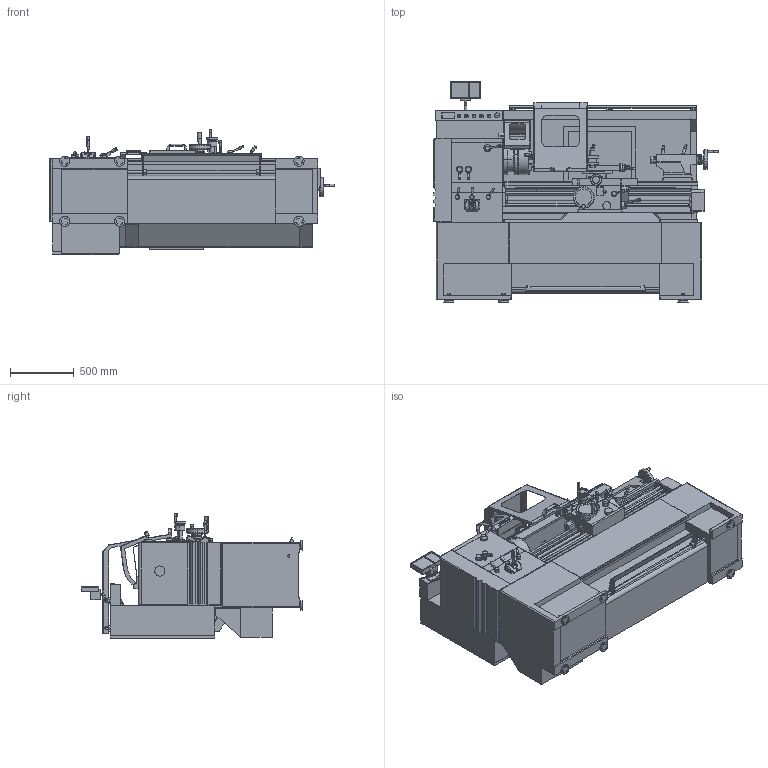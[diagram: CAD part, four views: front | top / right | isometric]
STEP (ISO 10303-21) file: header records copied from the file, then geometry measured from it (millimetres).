
FILE_DESCRIPTION (( 'STEP AP203' ), '1' );
FILE_NAME ('HML-1V.STEP', '2026-07-16T16:15:55', ( '' ), ( '' ), 'SwSTEP 2.0', 'SolidWorks 2025', '' );
FILE_SCHEMA (( 'CONFIG_CONTROL_DESIGN' ));
Products named in the file (13): Leveling Pads; Tailstock; Chuck Safety Guard; Control Panel and Headstock; Z-Axis; 3 Jaw Chuck; Base; Compound Rest & 4-way Tool Post; HML-1V; Digital Readout; Cross Slide & Apron; Sliding Safety Guard; Cabinet and Panel
Assembly tree (12 placements, depth 2):
  HML-1V
    Cabinet and Panel
    Sliding Safety Guard
    Control Panel and Headstock
    Chuck Safety Guard
    3 Jaw Chuck
    Z-Axis
    Base
    Tailstock
    Compound Rest & 4-way Tool Post
    Cross Slide & Apron
    Leveling Pads
    Digital Readout
Bounding box: 2232.83 x 1738.1 x 980.7 mm (x, y, z)
Volume: 791095183.6 mm3; surface area: 27198358.1 mm2
Topology: 34 solids, 37 shells, 6160 faces, 16615 edges, 10880 vertices
Faces by surface type: plane 3712, cylinder 1243, bspline 765, cone 276, torus 140, sphere 24
Entity records: 329441 total; most frequent: CARTESIAN_POINT 176312, ORIENTED_EDGE 33150, DIRECTION 29447, EDGE_CURVE 16575, VERTEX_POINT 10868, VECTOR 10331, LINE 10331, AXIS2_PLACEMENT_3D 9558
